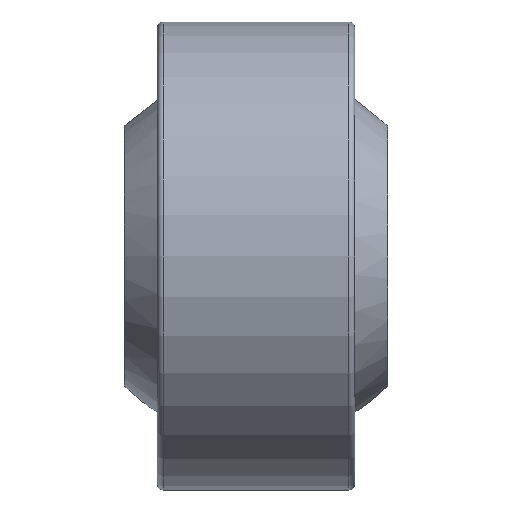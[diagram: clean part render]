
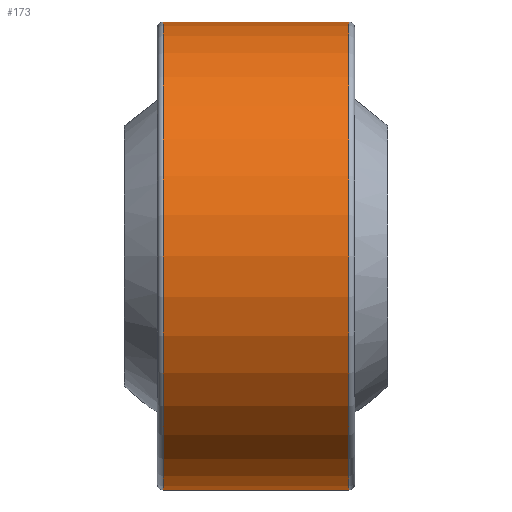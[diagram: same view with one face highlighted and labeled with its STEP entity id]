
A CAD part, front view. The second image highlights one B-rep face of the part: STEP entity #173.
In plain terms, the highlighted cylindrical face has radius 8 mm (diameter 16 mm), a full revolution.
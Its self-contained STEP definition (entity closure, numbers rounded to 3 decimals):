
#173 = ADVANCED_FACE( '', ( #195, #196, #197 ), #198, .T. );
#195 = FACE_OUTER_BOUND( '', #231, .T. );
#196 = FACE_BOUND( '', #232, .T. );
#197 = FACE_OUTER_BOUND( '', #233, .T. );
#198 = CYLINDRICAL_SURFACE( '', #234, 8. );
#231 = EDGE_LOOP( '', ( #274 ) );
#232 = EDGE_LOOP( '', ( #275 ) );
#233 = EDGE_LOOP( '', ( #276 ) );
#234 = AXIS2_PLACEMENT_3D( '', #277, #278, #279 );
#274 = ORIENTED_EDGE( '', *, *, #316, .T. );
#275 = ORIENTED_EDGE( '', *, *, #317, .T. );
#276 = ORIENTED_EDGE( '', *, *, #314, .F. );
#277 = CARTESIAN_POINT( '', ( 3.375, 0., 0. ) );
#278 = DIRECTION( '', ( -1., 0., 0. ) );
#279 = DIRECTION( '', ( 0., 0., -1. ) );
#314 = EDGE_CURVE( '', #330, #330, #331, .T. );
#316 = EDGE_CURVE( '', #334, #334, #335, .T. );
#317 = EDGE_CURVE( '', #336, #336, #337, .T. );
#330 = VERTEX_POINT( '', #354 );
#331 = CIRCLE( '', #355, 8. );
#334 = VERTEX_POINT( '', #358 );
#335 = CIRCLE( '', #359, 8. );
#336 = VERTEX_POINT( '', #360 );
#337 = B_SPLINE_CURVE_WITH_KNOTS( '', 3, ( #361, #362, #363, #364, #365, #366, #367, #368, #369, #370, #371, #372, #373, #374, #375, #376, #377, #378, #379, #380, #381, #382, #383, #384, #385, #386, #387, #388 ), .UNSPECIFIED., .T., .F., ( 2, 2, 2, 2, 2, 2, 2, 2, 2, 2, 2, 2, 2, 2, 2, 2 ), ( -0.001, 0., 0., 0.001, 0.001, 0.002, 0.002, 0.002, 0.003, 0.003, 0.003, 0.004, 0.004, 0.004, 0.005, 0.005 ), .UNSPECIFIED. );
#354 = CARTESIAN_POINT( '', ( 3.175, 0., -8. ) );
#355 = AXIS2_PLACEMENT_3D( '', #409, #410, #411 );
#358 = CARTESIAN_POINT( '', ( -3.175, 0., -8. ) );
#359 = AXIS2_PLACEMENT_3D( '', #415, #416, #417 );
#360 = CARTESIAN_POINT( '', ( 0.8, 8., 0. ) );
#361 = CARTESIAN_POINT( '', ( 0.8, 8., -0.212 ) );
#362 = CARTESIAN_POINT( '', ( 0.8, 8., 0.106 ) );
#363 = CARTESIAN_POINT( '', ( 0.779, 7.998, 0.21 ) );
#364 = CARTESIAN_POINT( '', ( 0.699, 7.99, 0.403 ) );
#365 = CARTESIAN_POINT( '', ( 0.639, 7.985, 0.492 ) );
#366 = CARTESIAN_POINT( '', ( 0.418, 7.97, 0.713 ) );
#367 = CARTESIAN_POINT( '', ( 0.209, 7.96, 0.8 ) );
#368 = CARTESIAN_POINT( '', ( -0.104, 7.96, 0.8 ) );
#369 = CARTESIAN_POINT( '', ( -0.209, 7.962, 0.779 ) );
#370 = CARTESIAN_POINT( '', ( -0.403, 7.969, 0.699 ) );
#371 = CARTESIAN_POINT( '', ( -0.491, 7.975, 0.641 ) );
#372 = CARTESIAN_POINT( '', ( -0.64, 7.985, 0.491 ) );
#373 = CARTESIAN_POINT( '', ( -0.699, 7.99, 0.403 ) );
#374 = CARTESIAN_POINT( '', ( -0.779, 7.998, 0.21 ) );
#375 = CARTESIAN_POINT( '', ( -0.8, 8., 0.105 ) );
#376 = CARTESIAN_POINT( '', ( -0.8, 8., -0.209 ) );
#377 = CARTESIAN_POINT( '', ( -0.714, 7.99, -0.417 ) );
#378 = CARTESIAN_POINT( '', ( -0.493, 7.975, -0.639 ) );
#379 = CARTESIAN_POINT( '', ( -0.404, 7.97, -0.698 ) );
#380 = CARTESIAN_POINT( '', ( -0.21, 7.962, -0.779 ) );
#381 = CARTESIAN_POINT( '', ( -0.106, 7.96, -0.8 ) );
#382 = CARTESIAN_POINT( '', ( 0.105, 7.96, -0.8 ) );
#383 = CARTESIAN_POINT( '', ( 0.209, 7.962, -0.779 ) );
#384 = CARTESIAN_POINT( '', ( 0.403, 7.969, -0.699 ) );
#385 = CARTESIAN_POINT( '', ( 0.491, 7.975, -0.64 ) );
#386 = CARTESIAN_POINT( '', ( 0.713, 7.99, -0.419 ) );
#387 = CARTESIAN_POINT( '', ( 0.8, 8., -0.212 ) );
#388 = CARTESIAN_POINT( '', ( 0.8, 8., 0.106 ) );
#409 = CARTESIAN_POINT( '', ( 3.175, 0., 0. ) );
#410 = DIRECTION( '', ( 1., 0., 0. ) );
#411 = DIRECTION( '', ( 0., 0., -1. ) );
#415 = CARTESIAN_POINT( '', ( -3.175, 0., 0. ) );
#416 = DIRECTION( '', ( 1., 0., 0. ) );
#417 = DIRECTION( '', ( 0., 0., -1. ) );
